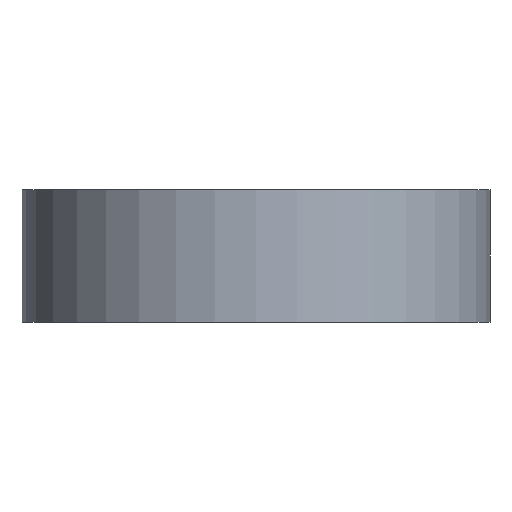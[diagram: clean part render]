
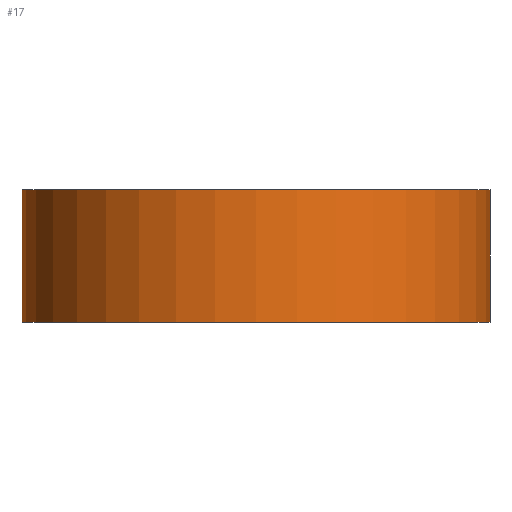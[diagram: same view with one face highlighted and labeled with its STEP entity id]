
A CAD part, front view. The second image highlights one B-rep face of the part: STEP entity #17.
In plain terms, the highlighted cylindrical face has radius 3.175 mm (diameter 6.35 mm), a full revolution.
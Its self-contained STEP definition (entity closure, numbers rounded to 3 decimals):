
#17 = ADVANCED_FACE('',(#18),#31,.T.);
#18 = FACE_BOUND('',#19,.T.);
#19 = EDGE_LOOP('',(#20,#54,#77,#104));
#20 = ORIENTED_EDGE('',*,*,#21,.F.);
#21 = EDGE_CURVE('',#22,#22,#24,.T.);
#22 = VERTEX_POINT('',#23);
#23 = CARTESIAN_POINT('',(3.175,0.,1.8));
#24 = SURFACE_CURVE('',#25,(#30,#42),.PCURVE_S1.);
#25 = CIRCLE('',#26,3.175);
#26 = AXIS2_PLACEMENT_3D('',#27,#28,#29);
#27 = CARTESIAN_POINT('',(0.,0.,1.8));
#28 = DIRECTION('',(0.,0.,1.));
#29 = DIRECTION('',(1.,0.,-0.));
#30 = PCURVE('',#31,#36);
#31 = CYLINDRICAL_SURFACE('',#32,3.175);
#32 = AXIS2_PLACEMENT_3D('',#33,#34,#35);
#33 = CARTESIAN_POINT('',(0.,0.,0.));
#34 = DIRECTION('',(0.,0.,1.));
#35 = DIRECTION('',(1.,0.,-0.));
#36 = DEFINITIONAL_REPRESENTATION('',(#37),#41);
#37 = LINE('',#38,#39);
#38 = CARTESIAN_POINT('',(0.,1.8));
#39 = VECTOR('',#40,1.);
#40 = DIRECTION('',(1.,0.));
#41 = ( GEOMETRIC_REPRESENTATION_CONTEXT(2) 
PARAMETRIC_REPRESENTATION_CONTEXT() REPRESENTATION_CONTEXT('2D SPACE',''
  ) );
#42 = PCURVE('',#43,#48);
#43 = PLANE('',#44);
#44 = AXIS2_PLACEMENT_3D('',#45,#46,#47);
#45 = CARTESIAN_POINT('',(0.,0.,1.8));
#46 = DIRECTION('',(0.,0.,1.));
#47 = DIRECTION('',(1.,0.,-0.));
#48 = DEFINITIONAL_REPRESENTATION('',(#49),#53);
#49 = CIRCLE('',#50,3.175);
#50 = AXIS2_PLACEMENT_2D('',#51,#52);
#51 = CARTESIAN_POINT('',(0.,0.));
#52 = DIRECTION('',(1.,0.));
#53 = ( GEOMETRIC_REPRESENTATION_CONTEXT(2) 
PARAMETRIC_REPRESENTATION_CONTEXT() REPRESENTATION_CONTEXT('2D SPACE',''
  ) );
#54 = ORIENTED_EDGE('',*,*,#55,.F.);
#55 = EDGE_CURVE('',#56,#22,#58,.T.);
#56 = VERTEX_POINT('',#57);
#57 = CARTESIAN_POINT('',(3.175,0.,0.));
#58 = SEAM_CURVE('',#59,(#63,#70),.PCURVE_S1.);
#59 = LINE('',#60,#61);
#60 = CARTESIAN_POINT('',(3.175,0.,0.));
#61 = VECTOR('',#62,1.);
#62 = DIRECTION('',(0.,0.,1.));
#63 = PCURVE('',#31,#64);
#64 = DEFINITIONAL_REPRESENTATION('',(#65),#69);
#65 = LINE('',#66,#67);
#66 = CARTESIAN_POINT('',(6.283,-0.));
#67 = VECTOR('',#68,1.);
#68 = DIRECTION('',(0.,1.));
#69 = ( GEOMETRIC_REPRESENTATION_CONTEXT(2) 
PARAMETRIC_REPRESENTATION_CONTEXT() REPRESENTATION_CONTEXT('2D SPACE',''
  ) );
#70 = PCURVE('',#31,#71);
#71 = DEFINITIONAL_REPRESENTATION('',(#72),#76);
#72 = LINE('',#73,#74);
#73 = CARTESIAN_POINT('',(0.,-0.));
#74 = VECTOR('',#75,1.);
#75 = DIRECTION('',(0.,1.));
#76 = ( GEOMETRIC_REPRESENTATION_CONTEXT(2) 
PARAMETRIC_REPRESENTATION_CONTEXT() REPRESENTATION_CONTEXT('2D SPACE',''
  ) );
#77 = ORIENTED_EDGE('',*,*,#78,.T.);
#78 = EDGE_CURVE('',#56,#56,#79,.T.);
#79 = SURFACE_CURVE('',#80,(#85,#92),.PCURVE_S1.);
#80 = CIRCLE('',#81,3.175);
#81 = AXIS2_PLACEMENT_3D('',#82,#83,#84);
#82 = CARTESIAN_POINT('',(0.,0.,0.));
#83 = DIRECTION('',(0.,0.,1.));
#84 = DIRECTION('',(1.,0.,-0.));
#85 = PCURVE('',#31,#86);
#86 = DEFINITIONAL_REPRESENTATION('',(#87),#91);
#87 = LINE('',#88,#89);
#88 = CARTESIAN_POINT('',(0.,0.));
#89 = VECTOR('',#90,1.);
#90 = DIRECTION('',(1.,0.));
#91 = ( GEOMETRIC_REPRESENTATION_CONTEXT(2) 
PARAMETRIC_REPRESENTATION_CONTEXT() REPRESENTATION_CONTEXT('2D SPACE',''
  ) );
#92 = PCURVE('',#93,#98);
#93 = PLANE('',#94);
#94 = AXIS2_PLACEMENT_3D('',#95,#96,#97);
#95 = CARTESIAN_POINT('',(0.,0.,0.));
#96 = DIRECTION('',(0.,0.,1.));
#97 = DIRECTION('',(1.,0.,-0.));
#98 = DEFINITIONAL_REPRESENTATION('',(#99),#103);
#99 = CIRCLE('',#100,3.175);
#100 = AXIS2_PLACEMENT_2D('',#101,#102);
#101 = CARTESIAN_POINT('',(0.,0.));
#102 = DIRECTION('',(1.,0.));
#103 = ( GEOMETRIC_REPRESENTATION_CONTEXT(2) 
PARAMETRIC_REPRESENTATION_CONTEXT() REPRESENTATION_CONTEXT('2D SPACE',''
  ) );
#104 = ORIENTED_EDGE('',*,*,#55,.T.);
